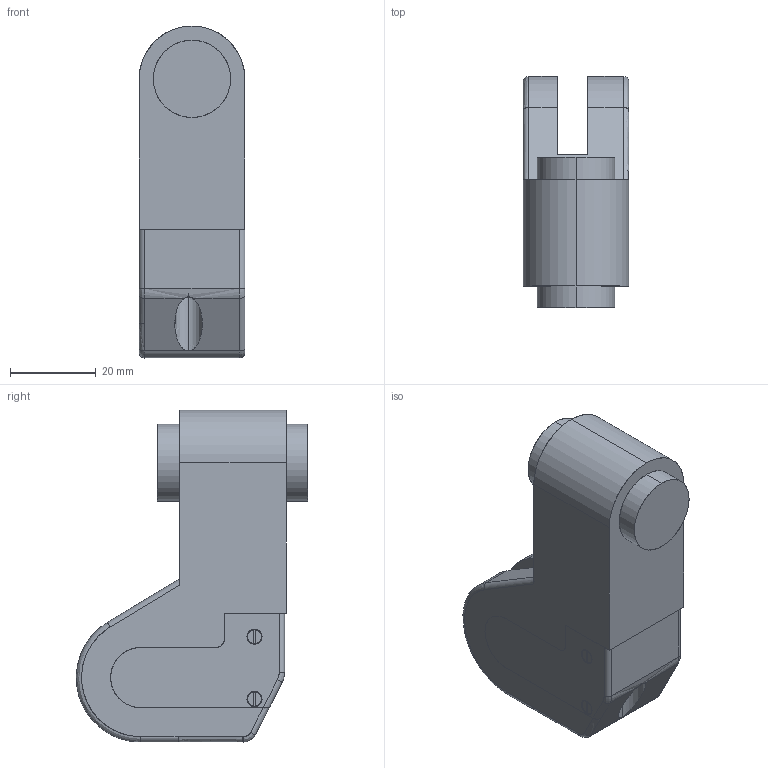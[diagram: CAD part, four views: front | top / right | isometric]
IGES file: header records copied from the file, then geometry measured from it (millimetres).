
Start section: SolidWorks IGES file using analytic representation for surfaces
Global section: file name: B4158.IGS; native system: SolidWorks 2010; preprocessor: SolidWorks 2010; author: dw; date: 101019.110915; units: millimetre
Bounding box: 24.6 x 53.9 x 77.3 mm (x, y, z)
Surface area: 13517.7 mm2 (no closed solid volume)
Topology: 0 solids, 0 shells, 179 faces, 1962 edges, 1960 vertices
Faces by surface type: bspline 124, revolution 55
